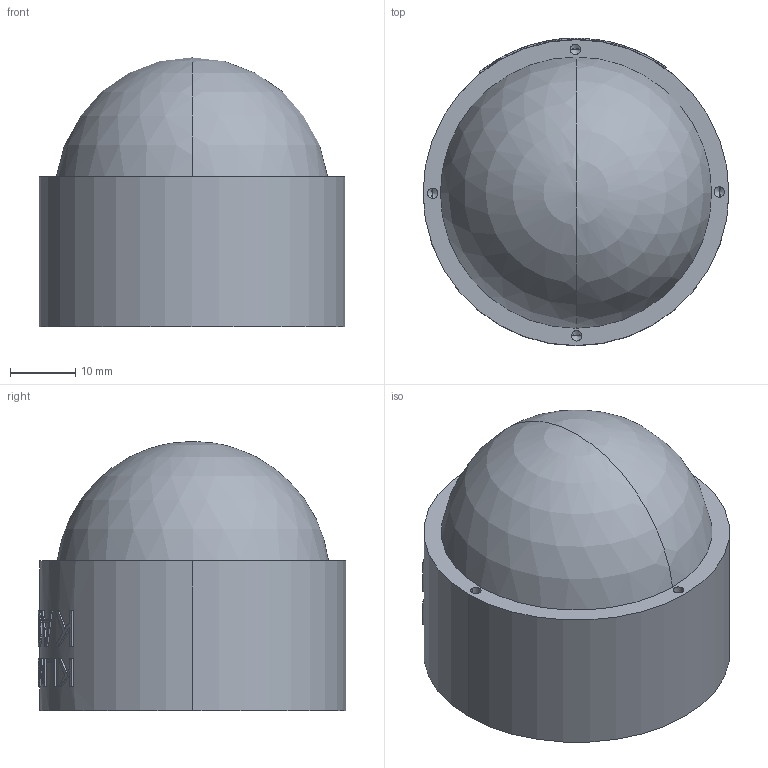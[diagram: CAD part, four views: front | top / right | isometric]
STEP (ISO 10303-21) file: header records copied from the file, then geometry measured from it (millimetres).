
FILE_DESCRIPTION((''),'2;1');
FILE_NAME('KLM800B','2025-12-26T09:51:41',('28740194'),(''),'CREO PARAMETRIC BY PTC INC, 2024063','CREO PARAMETRIC BY PTC INC, 2024063','');
FILE_SCHEMA(('CONFIG_CONTROL_DESIGN'));
Length unit declared in the file: millimetre
Products named in the file (1): KLM800B
Bounding box: 47 x 47.25 x 41.35 mm (x, y, z)
Volume: 55582.8 mm3; surface area: 8217.9 mm2
Topology: 1 solids, 1 shells, 415 faces, 1163 edges, 761 vertices
Faces by surface type: bspline 357, cylinder 38, cone 16, plane 2, sphere 2
Entity records: 17754 total; most frequent: CARTESIAN_POINT 9757, ORIENTED_EDGE 2290, EDGE_CURVE 1145, B_SPLINE_CURVE_WITH_KNOTS 861, VERTEX_POINT 761, DIRECTION 550, EDGE_LOOP 444, FACE_OUTER_BOUND 415
